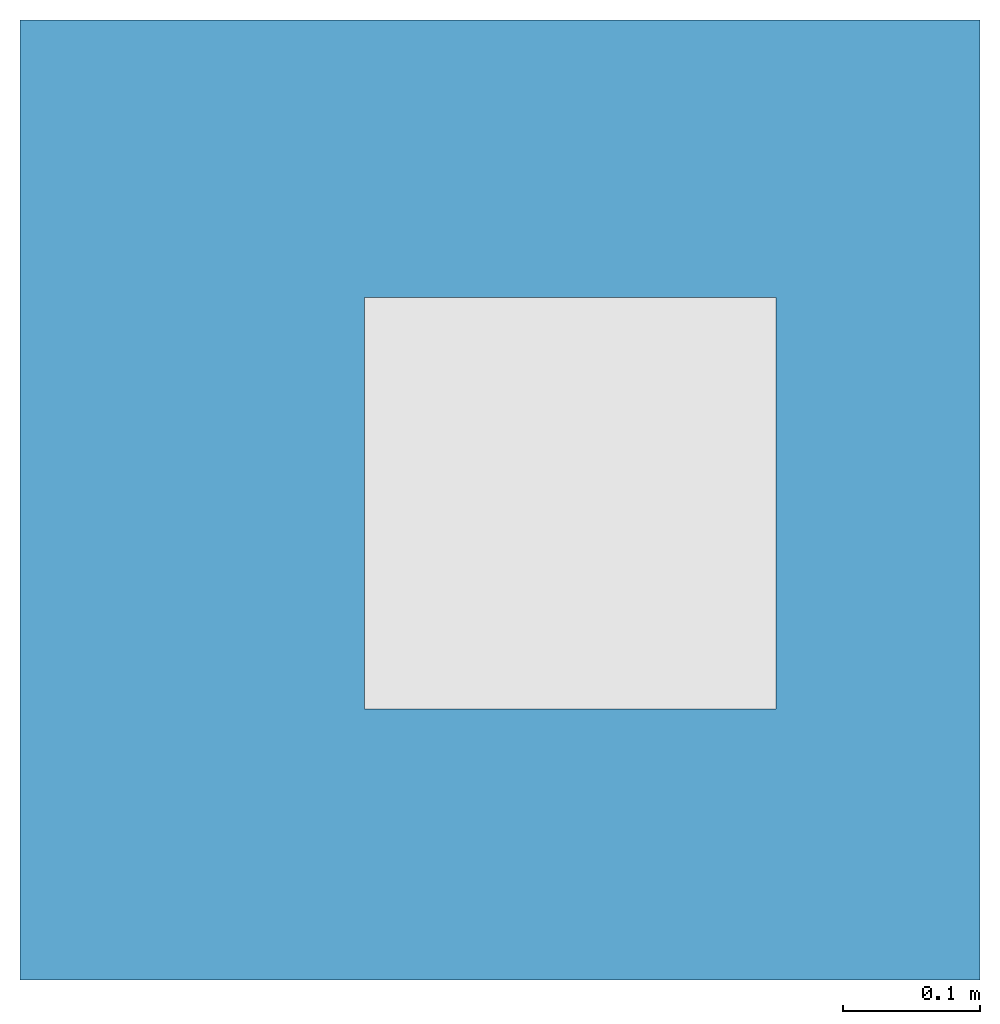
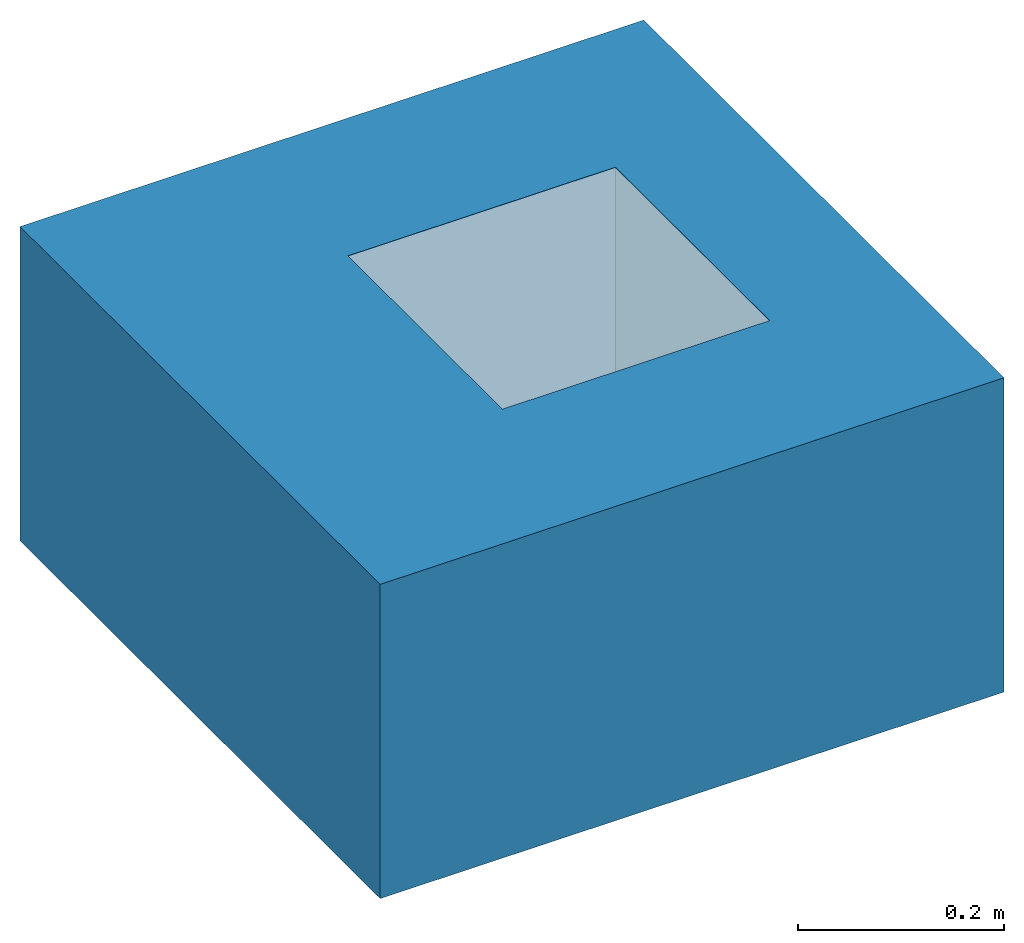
# One storey, incomplete: 1 slab.
"""IFC2X3 building model written with IfcOpenShell, lengths in millimetres."""

from ifc_helpers import new_model, entity, si_unit, converted_unit, derived_unit, direction, frame, frame_2d, origin, place, context, subcontext, project, spatial, polyline, rectangle, extrude, clip, bounded_halfspace, material, layer, layer_set, layer_usage, element, save


model = new_model("IFC2X3")

# Units and contexts
model_context = context("Model", 3, precision=1e-05, world=origin(), true_north=direction((2.0, 6.12303176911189e-17, 1.0)))
context_of_model = context(None, 3, precision=1e-05, world=origin(), true_north=direction((2.0, 6.12303176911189e-17, 1.0)))
body_context = subcontext(model_context, "Body", "Model", "MODEL_VIEW")
ifc_project = project(units=[si_unit("LENGTHUNIT", "METRE", prefix="MILLI"), converted_unit("AREAUNIT", "SQUARE FOOT", entity("IfcRatioMeasure", 0.09290304), si_unit("AREAUNIT", "SQUARE_METRE"), dimensions=[2, 0, 0, 0, 0, 0, 0]), converted_unit("VOLUMEUNIT", "CUBIC FOOT", entity("IfcRatioMeasure", 0.028316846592), si_unit("VOLUMEUNIT", "CUBIC_METRE"), dimensions=[3, 0, 0, 0, 0, 0, 0]), converted_unit("PLANEANGLEUNIT", "DEGREE", entity("IfcRatioMeasure", 0.0174532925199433), si_unit("PLANEANGLEUNIT", "RADIAN"), dimensions=[0, 0, 0, 0, 0, 0, 0]), si_unit("MASSUNIT", "GRAM", prefix="KILO"), si_unit("TIMEUNIT", "SECOND"), si_unit("THERMODYNAMICTEMPERATUREUNIT", "KELVIN"), derived_unit("THERMALTRANSMITTANCEUNIT", [(si_unit("MASSUNIT", "GRAM", prefix="KILO"), 1), (si_unit("THERMODYNAMICTEMPERATUREUNIT", "KELVIN"), -1), (si_unit("TIMEUNIT", "SECOND"), -3)]), derived_unit("VOLUMETRICFLOWRATEUNIT", [(si_unit("LENGTHUNIT", "METRE"), 3), (si_unit("TIMEUNIT", "SECOND"), -1)]), si_unit("POWERUNIT", "WATT")], contexts=[model_context, context_of_model])

# Site, building, storey
site_placement = place(None, origin())
site = spatial("IfcSite", under=ifc_project, at=site_placement, Name="Default", CompositionType="ELEMENT")
building_placement = place(site_placement, origin())
building = spatial("IfcBuilding", under=site, at=building_placement, CompositionType="ELEMENT")
storey_placement = place(building_placement, origin())
storey = spatial("IfcBuildingStorey", under=building, at=storey_placement, Name="Level 1", CompositionType="ELEMENT", Elevation=0.0)

# Slab
ifc_material_1 = material(Name="Plywood, Sheathing")
ifc_layer_1 = layer(ifc_material_1, 68.0)
ifc_material_2 = material(Name="Default Floor")
ifc_layer_2 = layer(ifc_material_2, 304.8)
ifc_layer_set = layer_set([ifc_layer_1, ifc_layer_2], Name="Floor:Generic - 12\"")
ifc_layer_usage = layer_usage(ifc_layer_set, "AXIS3", "POSITIVE", 0.0)
slab_placement = place(storey_placement, origin())
element("IfcSlab", 1, at=slab_placement, inside=storey, material=ifc_layer_usage, Name="Floor:Generic - 12\"", ObjectType="Floor:Generic - 12\"", PredefinedType="FLOOR", context=body_context, shape_type="Clipping", body=[
    clip(extrude(rectangle(XDim=700.0, YDim=699.999999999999, at=frame_2d((-1.4210854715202e-13, 1.08002495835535e-12), x_axis=(1.0, 0.0))), frame((-9948.06277217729, 2742.60708548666, 0.0), z_axis=(0.0, 0.0, -1.0), x_axis=(0.0, 1.0, 0.0)), (0.0, 0.0, 1.0), 372.800000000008), bounded_halfspace(frame((-9746.75987419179, 2900.3626883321, -336.0)), False, frame((-9948.06277217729, 2742.60708548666, 0.0), z_axis=(0.0, 0.0, -1.0), x_axis=(0.0, 1.0, 0.0)), polyline([(-152.244397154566, 201.302897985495), (147.75560284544, 201.302897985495), (147.755602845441, -98.6971020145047), (-152.244397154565, -98.6971020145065), (-152.244397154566, 201.302897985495)]))),
])

save(model, "model.ifc")
